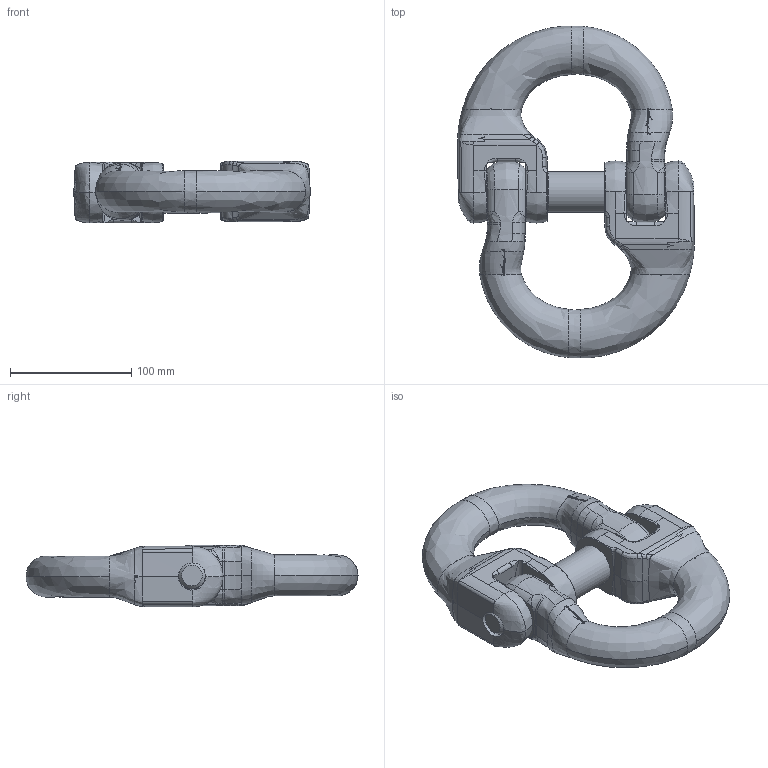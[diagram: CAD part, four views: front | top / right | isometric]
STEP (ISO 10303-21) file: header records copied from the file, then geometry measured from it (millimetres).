
FILE_DESCRIPTION(/* description */ (''),/* implementation_level */ '2;1');
FILE_NAME(/* name */ 'pewag_CW32 Kundenmodell',/* time_stamp */ '2010-01-22T12:25:21+01:00',/* author */ (''),/* organization */ (''),/* preprocessor_version */ 'ST-DEVELOPER v9',/* originating_system */ 'UGS - NX 4.0',/* authorisation */ '');
FILE_SCHEMA (('AUTOMOTIVE_DESIGN { 1 0 10303 214 1 1 1 1 }'));
Length unit declared in the file: millimetre
Products named in the file (1): rit28EDmwr6
Bounding box: 195.17 x 274.09 x 50.97 mm (x, y, z)
Volume: 1027938.7 mm3; surface area: 141736.5 mm2
Topology: 4 solids, 4 shells, 285 faces, 1056 edges, 773 vertices
Faces by surface type: bspline 122, cylinder 61, plane 40, cone 36, torus 14, sphere 12
Full cylindrical faces by diameter (mm): 20.375 x1, 22 x2, 22.5 x6
Entity records: 25435 total; most frequent: CARTESIAN_POINT 18226, ORIENTED_EDGE 2044, EDGE_CURVE 1022, VERTEX_POINT 764, DIRECTION 748, B_SPLINE_CURVE_WITH_KNOTS 738, EDGE_LOOP 316, AXIS2_PLACEMENT_3D 310
